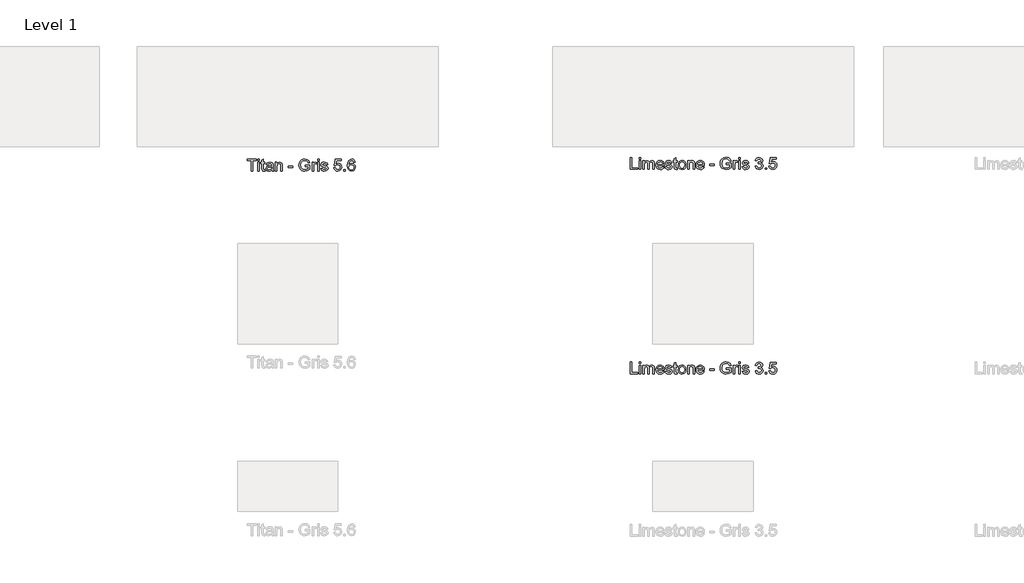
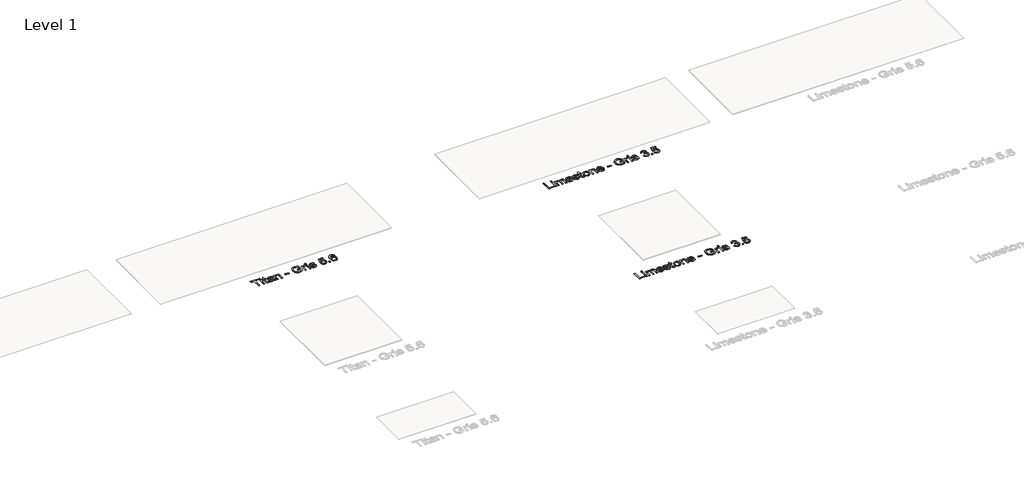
# One storey, part 5 of 80: 3 proxies.
"""IFC4 building model written with IfcOpenShell, lengths in millimetres."""

from ifc_helpers import new_model, si_unit, origin, origin_with_axes, place, context, project, spatial, polyline, outline, extrude, element, save

model = new_model("IFC4")

# Units and contexts
model_context = context("Model", 3, world=origin())
ifc_project = project(units=[si_unit("LENGTHUNIT", "METRE", prefix="MILLI")], contexts=[model_context])

# Site, building, storey
site = spatial("IfcSite", under=ifc_project)
building = spatial("IfcBuilding", under=site)
storey = spatial("IfcBuildingStorey", under=building, Name="Level 1", Elevation=0.0)

# Proxies
placement = place(None, origin())
element("IfcBuildingElementProxy", 1, Name="24\" Arial", ObjectType="24\" Arial", at=placement, inside=storey, context=model_context, shape_type="SweptSolid", body=[
    extrude(outline(polyline([(-23010.153031, -16671.3584739), (-23010.153031, -16567.9738585), (-23048.9222617, -16567.9738585), (-23048.9222617, -16553.2046277), (-22956.6145694, -16553.2046277), (-22956.6145694, -16567.9738585), (-22995.3838002, -16567.9738585), (-22995.3838002, -16671.3584739), (-23010.153031, -16671.3584739)])), origin_with_axes(), (0.0, 0.0, 1.0), 2.0),
    extrude(outline(polyline([(-22941.8453387, -16671.3584739), (-22941.8453387, -16584.5892431), (-22927.0761079, -16584.5892431), (-22927.0761079, -16671.3584739), (-22941.8453387, -16671.3584739)])), origin_with_axes(), (0.0, 0.0, 1.0), 2.0),
    extrude(outline(polyline([(-22941.8453387, -16567.9738585), (-22941.8453387, -16553.2046277), (-22927.0761079, -16553.2046277), (-22927.0761079, -16567.9738585), (-22941.8453387, -16567.9738585)])), origin_with_axes(), (0.0, 0.0, 1.0), 2.0),
    extrude(outline(polyline([(-22873.5376464, -16659.0411662), (-22871.6914925, -16671.7911662), (-22882.7395694, -16673.2046277), (-22895.1145694, -16670.7527046), (-22901.2876464, -16664.3200123), (-22903.0761079, -16647.560397), (-22903.0761079, -16599.3584739), (-22914.153031, -16599.3584739), (-22914.153031, -16584.5892431), (-22903.0761079, -16584.5892431), (-22903.0761079, -16563.5027046), (-22888.3068771, -16554.8200123), (-22888.3068771, -16584.5892431), (-22873.5376464, -16584.5892431), (-22873.5376464, -16599.3584739), (-22888.3068771, -16599.3584739), (-22888.3068771, -16647.1277046), (-22887.528031, -16654.7430893), (-22885.0039925, -16657.4402046), (-22879.9703387, -16658.435397), (-22873.5376464, -16659.0411662)])), origin_with_axes(), (0.0, 0.0, 1.0), 2.0),
    extrude(outline(polyline([(-22803.3838002, -16660.2815508), (-22817.7059156, -16670.2911662), (-22833.528031, -16673.2046277), (-22845.8705791, -16671.4522239), (-22854.9751464, -16666.1950123), (-22860.5893291, -16658.2118393), (-22862.4607233, -16648.2815508), (-22859.6338002, -16636.5988585), (-22852.2059156, -16628.1180893), (-22841.8645694, -16623.2719354), (-22829.0857233, -16621.0507816), (-22803.4703387, -16615.9738585), (-22803.3838002, -16612.685397), (-22807.4511079, -16601.7815508), (-22823.778031, -16597.51232), (-22838.7203387, -16600.3536662), (-22845.8453387, -16610.435397), (-22860.6145694, -16608.5892431), (-22854.2251464, -16594.1661662), (-22841.3597617, -16585.7142431), (-22821.8741848, -16582.7430893), (-22803.9751464, -16585.3680893), (-22793.8645694, -16591.9594354), (-22789.3357233, -16601.9834739), (-22788.6145694, -16614.9065508), (-22788.6145694, -16633.2815508), (-22787.8645694, -16658.9402046), (-22784.9222617, -16671.3584739), (-22799.6914925, -16671.3584739), (-22803.3838002, -16660.2815508)]), holes=[polyline([(-22803.3838002, -16630.7430893), (-22827.2107233, -16635.2719354), (-22839.9174541, -16637.6661662), (-22845.6722617, -16641.560397), (-22847.6914925, -16647.2430893), (-22843.2924541, -16655.2334739), (-22830.3838002, -16658.435397), (-22815.4414925, -16654.9017431), (-22805.8068771, -16646.3488585), (-22803.4703387, -16634.9257816), (-22803.3838002, -16630.7430893)])]), origin_with_axes(), (0.0, 0.0, 1.0), 2.0),
    extrude(outline(polyline([(-22768.3068771, -16671.3584739), (-22768.3068771, -16584.5892431), (-22753.5376464, -16584.5892431), (-22753.5376464, -16596.7046277), (-22742.2443771, -16586.2334739), (-22726.8261079, -16582.7430893), (-22712.8789925, -16585.5555893), (-22703.3597617, -16592.9402046), (-22698.9318771, -16603.8007816), (-22698.153031, -16618.0796277), (-22698.153031, -16671.3584739), (-22712.9222617, -16671.3584739), (-22712.9222617, -16620.0700123), (-22714.6241848, -16607.0027046), (-22720.6386079, -16600.0940508), (-22730.778031, -16597.51232), (-22746.8020694, -16603.310397), (-22751.8537521, -16611.7118393), (-22753.5376464, -16625.3200123), (-22753.5376464, -16671.3584739), (-22768.3068771, -16671.3584739)])), origin_with_axes(), (0.0, 0.0, 1.0), 2.0),
    extrude(outline(polyline([(-22639.0761079, -16636.2815508), (-22639.0761079, -16621.51232), (-22592.9222617, -16621.51232), (-22592.9222617, -16636.2815508), (-22639.0761079, -16636.2815508)])), origin_with_axes(), (0.0, 0.0, 1.0), 2.0),
    extrude(outline(polyline([(-22472.9222617, -16625.2046277), (-22472.9222617, -16610.435397), (-22424.9222617, -16610.435397), (-22424.9222617, -16654.5988585), (-22448.6193771, -16668.5315508), (-22473.6722617, -16673.2046277), (-22490.2407714, -16671.3476566), (-22505.215531, -16665.7767431), (-22517.6554348, -16656.6865989), (-22526.6193771, -16644.2719354), (-22532.0388483, -16629.3801085), (-22533.8453387, -16612.8584739), (-22532.0460598, -16596.2178489), (-22526.6482233, -16580.7382816), (-22517.8753867, -16567.7539066), (-22505.9511079, -16558.5988585), (-22491.4270694, -16553.16857), (-22474.8549541, -16551.3584739), (-22451.7491848, -16555.5555893), (-22435.5520694, -16567.2382816), (-22426.6241848, -16586.7815508), (-22440.2395694, -16590.6180893), (-22446.9751464, -16576.9594354), (-22458.4847617, -16569.0844354), (-22475.0857233, -16566.1277046), (-22493.9943771, -16569.3152046), (-22506.8597617, -16577.6805893), (-22514.4607233, -16589.060397), (-22519.0761079, -16612.2527046), (-22517.6878867, -16626.3765027), (-22513.5232233, -16637.997897), (-22506.7083194, -16647.0339546), (-22497.3693771, -16653.4017431), (-22474.8549541, -16658.435397), (-22454.6482233, -16654.6421277), (-22439.6914925, -16646.5507816), (-22439.6914925, -16625.2046277), (-22472.9222617, -16625.2046277)])), origin_with_axes(), (0.0, 0.0, 1.0), 2.0),
    extrude(outline(polyline([(-22402.7684156, -16671.3584739), (-22402.7684156, -16584.5892431), (-22389.8453387, -16584.5892431), (-22389.8453387, -16597.4257816), (-22380.6722617, -16585.5988585), (-22371.4414925, -16582.7430893), (-22356.6145694, -16587.3007816), (-22361.5472617, -16600.5411662), (-22371.9318771, -16597.51232), (-22380.2828387, -16600.4257816), (-22385.6049541, -16608.5027046), (-22387.9991848, -16625.7527046), (-22387.9991848, -16671.3584739), (-22402.7684156, -16671.3584739)])), origin_with_axes(), (0.0, 0.0, 1.0), 2.0),
    extrude(outline(polyline([(-22347.3838002, -16671.3584739), (-22347.3838002, -16584.5892431), (-22332.6145694, -16584.5892431), (-22332.6145694, -16671.3584739), (-22347.3838002, -16671.3584739)])), origin_with_axes(), (0.0, 0.0, 1.0), 2.0),
    extrude(outline(polyline([(-22347.3838002, -16567.9738585), (-22347.3838002, -16553.2046277), (-22332.6145694, -16553.2046277), (-22332.6145694, -16567.9738585), (-22347.3838002, -16567.9738585)])), origin_with_axes(), (0.0, 0.0, 1.0), 2.0),
    extrude(outline(polyline([(-22315.9991848, -16645.51232), (-22301.2299541, -16643.6661662), (-22294.3934156, -16654.6277046), (-22278.7299541, -16658.435397), (-22263.6722617, -16654.9450123), (-22258.7684156, -16646.7527046), (-22263.7011079, -16640.1180893), (-22278.903031, -16635.9065508), (-22301.1434156, -16628.6805893), (-22310.8501464, -16620.2430893), (-22314.153031, -16608.3296277), (-22311.4991848, -16597.32482), (-22304.2588002, -16588.9161662), (-22294.8693771, -16584.5459739), (-22282.1626464, -16582.7430893), (-22264.1914925, -16585.6421277), (-22252.7684156, -16593.4882816), (-22247.6914925, -16606.7430893), (-22262.4607233, -16608.5892431), (-22268.0136079, -16600.4402046), (-22281.0088002, -16597.51232), (-22295.1434156, -16600.310397), (-22299.3838002, -16606.8296277), (-22297.6241848, -16611.1277046), (-22292.1145694, -16614.38732), (-22279.3934156, -16617.5315508), (-22257.715531, -16624.4834739), (-22247.6482233, -16632.3584739), (-22243.9991848, -16645.1950123), (-22248.2828387, -16659.3296277), (-22260.6434156, -16669.5844354), (-22278.9318771, -16673.2046277), (-22293.8237041, -16671.4594354), (-22304.6914925, -16666.2238585), (-22311.9463002, -16657.5555893), (-22315.9991848, -16645.51232)])), origin_with_axes(), (0.0, 0.0, 1.0), 2.0),
    extrude(outline(polyline([(-22184.9222617, -16639.9738585), (-22170.153031, -16638.1277046), (-22162.7107233, -16653.3440508), (-22147.278031, -16658.435397), (-22136.6914925, -16656.6649643), (-22128.7588002, -16651.3536662), (-22123.8044733, -16643.1144835), (-22122.153031, -16632.560397), (-22123.699906, -16622.622897), (-22128.340531, -16615.0219354), (-22136.1109637, -16610.1974162), (-22147.0472617, -16608.5892431), (-22160.0136079, -16611.1565508), (-22168.3068771, -16617.8200123), (-22183.0761079, -16615.9738585), (-22170.153031, -16555.0507816), (-22112.9222617, -16555.0507816), (-22112.9222617, -16569.8200123), (-22158.2107233, -16569.8200123), (-22164.528031, -16602.3584739), (-22153.9775502, -16595.9546277), (-22142.9222617, -16593.8200123), (-22129.1229829, -16596.466647), (-22117.6674541, -16604.4065508), (-22109.9547137, -16616.5075123), (-22107.3838002, -16631.63732), (-22109.6987041, -16646.4065508), (-22116.6434156, -16659.0411662), (-22129.9414925, -16669.6637623), (-22147.3357233, -16673.2046277), (-22161.8417329, -16670.9293873), (-22173.3982233, -16664.1036662), (-22181.3200983, -16653.5207335), (-22184.9222617, -16639.9738585)])), origin_with_axes(), (0.0, 0.0, 1.0), 2.0),
    extrude(outline(polyline([(-22087.0761079, -16671.3584739), (-22087.0761079, -16656.5892431), (-22072.3068771, -16656.5892431), (-22072.3068771, -16671.3584739), (-22087.0761079, -16671.3584739)])), origin_with_axes(), (0.0, 0.0, 1.0), 2.0),
    extrude(outline(polyline([(-21972.6145694, -16584.5892431), (-21987.3838002, -16586.435397), (-21992.9799541, -16574.1180893), (-21999.6794733, -16569.5099162), (-22007.778031, -16567.9738585), (-22021.1049541, -16571.5507816), (-22031.1866848, -16584.9786662), (-22035.3838002, -16611.3007816), (-22022.3597617, -16599.5171277), (-22006.2203387, -16595.6661662), (-21992.5761079, -16598.2983777), (-21981.1241848, -16606.1950123), (-21973.3573579, -16618.2599162), (-21970.7684156, -16633.3969354), (-21975.6434156, -16653.7767431), (-21989.0568771, -16668.19982), (-22008.4126464, -16673.2046277), (-22025.168656, -16669.88732), (-22038.5136079, -16659.935397), (-22047.2431752, -16642.3680893), (-22050.153031, -16616.2046277), (-22046.9222617, -16586.7887623), (-22037.2299541, -16566.6757816), (-22023.996781, -16556.5724162), (-22006.8549541, -16553.2046277), (-21993.8958194, -16555.2887623), (-21983.5184156, -16561.5411662), (-21976.2491848, -16571.4714546), (-21972.6145694, -16584.5892431)]), holes=[polyline([(-22035.3838002, -16633.1661662), (-22031.965531, -16645.9594354), (-22022.8789925, -16655.247897), (-22009.5664925, -16658.435397), (-21999.8200983, -16656.7839546), (-21992.1578387, -16651.8296277), (-21987.1926944, -16644.0411662), (-21985.5376464, -16633.88732), (-21987.1710598, -16624.1409258), (-21992.0713002, -16616.7094354), (-21999.8633675, -16612.0039066), (-22010.1722617, -16610.435397), (-22019.9042329, -16612.0039066), (-22028.0424541, -16616.7094354), (-22033.5484637, -16623.9606373), (-22035.3838002, -16633.1661662)])]), origin_with_axes(), (0.0, 0.0, 1.0), 2.0),
])
element("IfcBuildingElementProxy", 2, Name="24\" Arial", ObjectType="24\" Arial", at=placement, inside=storey, context=model_context, shape_type="SweptSolid", body=[
    extrude(outline(polyline([(-19231.9991848, -16654.869717), (-19231.9991848, -16536.7158709), (-19217.2299541, -16536.7158709), (-19217.2299541, -16640.1004862), (-19158.153031, -16640.1004862), (-19158.153031, -16654.869717), (-19231.9991848, -16654.869717)])), origin_with_axes(), (0.0, 0.0, 1.0), 2.0),
    extrude(outline(polyline([(-19143.3838002, -16551.4851016), (-19143.3838002, -16536.7158709), (-19128.6145694, -16536.7158709), (-19128.6145694, -16551.4851016), (-19143.3838002, -16551.4851016)])), origin_with_axes(), (0.0, 0.0, 1.0), 2.0),
    extrude(outline(polyline([(-19143.3838002, -16654.869717), (-19143.3838002, -16568.1004862), (-19128.6145694, -16568.1004862), (-19128.6145694, -16654.869717), (-19143.3838002, -16654.869717)])), origin_with_axes(), (0.0, 0.0, 1.0), 2.0),
    extrude(outline(polyline([(-19106.4607233, -16654.869717), (-19106.4607233, -16568.1004862), (-19091.6914925, -16568.1004862), (-19091.6914925, -16582.3793324), (-19081.5376464, -16570.682217), (-19067.0857233, -16566.2543324), (-19052.2876464, -16570.7687555), (-19044.153031, -16583.4177939), (-19032.6289925, -16570.5451978), (-19018.0761079, -16566.2543324), (-19006.9739444, -16568.0391882), (-18998.7636079, -16573.3937555), (-18993.6902906, -16582.4622651), (-18991.9991848, -16595.3889478), (-18991.9991848, -16654.869717), (-19006.7684156, -16654.869717), (-19006.7684156, -16601.7351016), (-19008.1386079, -16589.4033709), (-19013.1001464, -16583.3312555), (-19021.5376464, -16581.0235632), (-19029.5388483, -16582.5019285), (-19036.0616848, -16586.9370247), (-19040.3994252, -16594.6317362), (-19041.8453387, -16605.8889478), (-19041.8453387, -16654.869717), (-19056.6145694, -16654.869717), (-19056.6145694, -16600.0908709), (-19060.0328387, -16585.7831785), (-19071.2395694, -16581.0235632), (-19082.1722617, -16584.1966401), (-19089.4414925, -16593.4851016), (-19091.6914925, -16611.1101016), (-19091.6914925, -16654.869717), (-19106.4607233, -16654.869717)])), origin_with_axes(), (0.0, 0.0, 1.0), 2.0),
    extrude(outline(polyline([(-18909.0953387, -16629.0235632), (-18894.6145694, -16630.869717), (-18899.8321175, -16641.7807747), (-18908.1578387, -16649.9370247), (-18919.4042329, -16655.0211593), (-18933.3838002, -16656.7158709), (-18950.7131271, -16653.791592), (-18964.0472617, -16645.0187555), (-18972.5496656, -16630.9670728), (-18975.3838002, -16612.2062555), (-18972.5208194, -16592.8144285), (-18963.9318771, -16578.3120247), (-18950.778031, -16569.2687555), (-18934.2203387, -16566.2543324), (-18918.1782714, -16569.2615439), (-18905.3597617, -16578.2831785), (-18896.9547137, -16592.7567362), (-18894.153031, -16612.119717), (-18894.2395694, -16616.1004862), (-18960.6145694, -16616.1004862), (-18958.0580791, -16627.1557747), (-18952.1193771, -16635.2831785), (-18943.5484637, -16640.2807747), (-18933.0953387, -16641.9466401), (-18918.6145694, -16638.8601016), (-18909.0953387, -16629.0235632)]), holes=[polyline([(-18960.6145694, -16601.3312555), (-18908.9222617, -16601.3312555), (-18914.8357233, -16587.9466401), (-18923.4463002, -16582.7543324), (-18934.278031, -16581.0235632), (-18952.465531, -16586.5476016), (-18958.1878867, -16593.0055343), (-18960.6145694, -16601.3312555)])]), origin_with_axes(), (0.0, 0.0, 1.0), 2.0),
    extrude(outline(polyline([(-18884.9222617, -16629.0235632), (-18870.153031, -16627.1774093), (-18863.3164925, -16638.1389478), (-18847.653031, -16641.9466401), (-18832.5953387, -16638.4562555), (-18827.6914925, -16630.2639478), (-18832.6241848, -16623.6293324), (-18847.8261079, -16619.4177939), (-18870.0664925, -16612.1918324), (-18879.7732233, -16603.7543324), (-18883.0761079, -16591.8408709), (-18880.4222617, -16580.8360632), (-18873.1818771, -16572.4274093), (-18863.7924541, -16568.057217), (-18851.0857233, -16566.2543324), (-18833.1145694, -16569.1533709), (-18821.6914925, -16576.9995247), (-18816.6145694, -16590.2543324), (-18831.3838002, -16592.1004862), (-18836.9366848, -16583.9514478), (-18849.9318771, -16581.0235632), (-18864.0664925, -16583.8216401), (-18868.3068771, -16590.3408709), (-18866.5472617, -16594.6389478), (-18861.0376464, -16597.8985632), (-18848.3164925, -16601.0427939), (-18826.6386079, -16607.994717), (-18816.5713002, -16615.869717), (-18812.9222617, -16628.7062555), (-18817.2059156, -16642.8408709), (-18829.5664925, -16653.0956785), (-18847.8549541, -16656.7158709), (-18862.746781, -16654.9706785), (-18873.6145694, -16649.7351016), (-18880.8693771, -16641.0668324), (-18884.9222617, -16629.0235632)])), origin_with_axes(), (0.0, 0.0, 1.0), 2.0),
    extrude(outline(polyline([(-18764.9222617, -16642.5524093), (-18763.0761079, -16655.3024093), (-18774.1241848, -16656.7158709), (-18786.4991848, -16654.2639478), (-18792.6722617, -16647.8312555), (-18794.4607233, -16631.0716401), (-18794.4607233, -16582.869717), (-18805.5376464, -16582.869717), (-18805.5376464, -16568.1004862), (-18794.4607233, -16568.1004862), (-18794.4607233, -16547.0139478), (-18779.6914925, -16538.3312555), (-18779.6914925, -16568.1004862), (-18764.9222617, -16568.1004862), (-18764.9222617, -16582.869717), (-18779.6914925, -16582.869717), (-18779.6914925, -16630.6389478), (-18778.9126464, -16638.2543324), (-18776.3886079, -16640.9514478), (-18771.3549541, -16641.9466401), (-18764.9222617, -16642.5524093)])), origin_with_axes(), (0.0, 0.0, 1.0), 2.0),
    extrude(outline(polyline([(-18753.8453387, -16611.4851016), (-18750.6506271, -16590.5644285), (-18741.0664925, -16575.8601016), (-18729.2251464, -16568.6557747), (-18715.0472617, -16566.2543324), (-18699.5316367, -16569.1786112), (-18687.1386079, -16577.9514478), (-18679.0148098, -16591.8805343), (-18676.3068771, -16610.2735632), (-18681.0953387, -16636.5524093), (-18695.0424541, -16651.4226016), (-18715.0472617, -16656.7158709), (-18730.7503867, -16653.8024093), (-18743.1289925, -16645.0620247), (-18751.1662521, -16630.8408709), (-18753.8453387, -16611.4851016)]), holes=[polyline([(-18739.0761079, -16611.4562555), (-18737.3669733, -16624.822842), (-18732.2395694, -16634.3456785), (-18724.5232233, -16640.0463997), (-18715.0472617, -16641.9466401), (-18705.6145694, -16640.0355824), (-18697.9126464, -16634.3024093), (-18692.7852425, -16624.6533709), (-18691.0761079, -16610.994717), (-18692.7960598, -16598.0175535), (-18697.9559156, -16588.6245247), (-18705.668656, -16582.9238035), (-18715.0472617, -16581.0235632), (-18724.5232233, -16582.916592), (-18732.2395694, -16588.5956785), (-18737.3669733, -16598.0968805), (-18739.0761079, -16611.4562555)])]), origin_with_axes(), (0.0, 0.0, 1.0), 2.0),
    extrude(outline(polyline([(-18659.6914925, -16654.869717), (-18659.6914925, -16568.1004862), (-18644.9222617, -16568.1004862), (-18644.9222617, -16580.2158709), (-18633.6289925, -16569.744717), (-18618.2107233, -16566.2543324), (-18604.2636079, -16569.0668324), (-18594.7443771, -16576.4514478), (-18590.3164925, -16587.3120247), (-18589.5376464, -16601.5908709), (-18589.5376464, -16654.869717), (-18604.3068771, -16654.869717), (-18604.3068771, -16603.5812555), (-18606.0088002, -16590.5139478), (-18612.0232233, -16583.6052939), (-18622.1626464, -16581.0235632), (-18638.1866848, -16586.8216401), (-18643.2383675, -16595.2230824), (-18644.9222617, -16608.8312555), (-18644.9222617, -16654.869717), (-18659.6914925, -16654.869717)])), origin_with_axes(), (0.0, 0.0, 1.0), 2.0),
    extrude(outline(polyline([(-18508.4799541, -16629.0235632), (-18493.9991848, -16630.869717), (-18499.2167329, -16641.7807747), (-18507.5424541, -16649.9370247), (-18518.7888483, -16655.0211593), (-18532.7684156, -16656.7158709), (-18550.0977425, -16653.791592), (-18563.4318771, -16645.0187555), (-18571.934281, -16630.9670728), (-18574.7684156, -16612.2062555), (-18571.9054348, -16592.8144285), (-18563.3164925, -16578.3120247), (-18550.1626464, -16569.2687555), (-18533.6049541, -16566.2543324), (-18517.5628867, -16569.2615439), (-18504.7443771, -16578.2831785), (-18496.3393291, -16592.7567362), (-18493.5376464, -16612.119717), (-18493.6241848, -16616.1004862), (-18559.9991848, -16616.1004862), (-18557.4426944, -16627.1557747), (-18551.5039925, -16635.2831785), (-18542.9330791, -16640.2807747), (-18532.4799541, -16641.9466401), (-18517.9991848, -16638.8601016), (-18508.4799541, -16629.0235632)]), holes=[polyline([(-18559.9991848, -16601.3312555), (-18508.3068771, -16601.3312555), (-18514.2203387, -16587.9466401), (-18522.8309156, -16582.7543324), (-18533.6626464, -16581.0235632), (-18551.8501464, -16586.5476016), (-18557.5725021, -16593.0055343), (-18559.9991848, -16601.3312555)])]), origin_with_axes(), (0.0, 0.0, 1.0), 2.0),
    extrude(outline(polyline([(-18439.9991848, -16619.7927939), (-18439.9991848, -16605.0235632), (-18393.8453387, -16605.0235632), (-18393.8453387, -16619.7927939), (-18439.9991848, -16619.7927939)])), origin_with_axes(), (0.0, 0.0, 1.0), 2.0),
    extrude(outline(polyline([(-18273.8453387, -16608.7158709), (-18273.8453387, -16593.9466401), (-18225.8453387, -16593.9466401), (-18225.8453387, -16638.1101016), (-18249.5424541, -16652.0427939), (-18274.5953387, -16656.7158709), (-18291.1638483, -16654.8588997), (-18306.1386079, -16649.2879862), (-18318.5785117, -16640.197842), (-18327.5424541, -16627.7831785), (-18332.9619252, -16612.8913516), (-18334.7684156, -16596.369717), (-18332.9691367, -16579.729092), (-18327.5713002, -16564.2495247), (-18318.7984637, -16551.2651497), (-18306.8741848, -16542.1101016), (-18292.3501464, -16536.6798132), (-18275.778031, -16534.869717), (-18252.6722617, -16539.0668324), (-18236.4751464, -16550.7495247), (-18227.5472617, -16570.2927939), (-18241.1626464, -16574.1293324), (-18247.8982233, -16560.4706785), (-18259.4078387, -16552.5956785), (-18276.0088002, -16549.6389478), (-18294.9174541, -16552.8264478), (-18307.7828387, -16561.1918324), (-18315.3838002, -16572.5716401), (-18319.9991848, -16595.7639478), (-18318.6109637, -16609.8877459), (-18314.4463002, -16621.5091401), (-18307.6313964, -16630.5451978), (-18298.2924541, -16636.9129862), (-18275.778031, -16641.9466401), (-18255.5713002, -16638.1533709), (-18240.6145694, -16630.0620247), (-18240.6145694, -16608.7158709), (-18273.8453387, -16608.7158709)])), origin_with_axes(), (0.0, 0.0, 1.0), 2.0),
    extrude(outline(polyline([(-18203.6914925, -16654.869717), (-18203.6914925, -16568.1004862), (-18190.7684156, -16568.1004862), (-18190.7684156, -16580.9370247), (-18181.5953387, -16569.1101016), (-18172.3645694, -16566.2543324), (-18157.5376464, -16570.8120247), (-18162.4703387, -16584.0524093), (-18172.8549541, -16581.0235632), (-18181.2059156, -16583.9370247), (-18186.528031, -16592.0139478), (-18188.9222617, -16609.2639478), (-18188.9222617, -16654.869717), (-18203.6914925, -16654.869717)])), origin_with_axes(), (0.0, 0.0, 1.0), 2.0),
    extrude(outline(polyline([(-18148.3068771, -16551.4851016), (-18148.3068771, -16536.7158709), (-18133.5376464, -16536.7158709), (-18133.5376464, -16551.4851016), (-18148.3068771, -16551.4851016)])), origin_with_axes(), (0.0, 0.0, 1.0), 2.0),
    extrude(outline(polyline([(-18148.3068771, -16654.869717), (-18148.3068771, -16568.1004862), (-18133.5376464, -16568.1004862), (-18133.5376464, -16654.869717), (-18148.3068771, -16654.869717)])), origin_with_axes(), (0.0, 0.0, 1.0), 2.0),
    extrude(outline(polyline([(-18116.9222617, -16629.0235632), (-18102.153031, -16627.1774093), (-18095.3164925, -16638.1389478), (-18079.653031, -16641.9466401), (-18064.5953387, -16638.4562555), (-18059.6914925, -16630.2639478), (-18064.6241848, -16623.6293324), (-18079.8261079, -16619.4177939), (-18102.0664925, -16612.1918324), (-18111.7732233, -16603.7543324), (-18115.0761079, -16591.8408709), (-18112.4222617, -16580.8360632), (-18105.1818771, -16572.4274093), (-18095.7924541, -16568.057217), (-18083.0857233, -16566.2543324), (-18065.1145694, -16569.1533709), (-18053.6914925, -16576.9995247), (-18048.6145694, -16590.2543324), (-18063.3838002, -16592.1004862), (-18068.9366848, -16583.9514478), (-18081.9318771, -16581.0235632), (-18096.0664925, -16583.8216401), (-18100.3068771, -16590.3408709), (-18098.5472617, -16594.6389478), (-18093.0376464, -16597.8985632), (-18080.3164925, -16601.0427939), (-18058.6386079, -16607.994717), (-18048.5713002, -16615.869717), (-18044.9222617, -16628.7062555), (-18049.2059156, -16642.8408709), (-18061.5664925, -16653.0956785), (-18079.8549541, -16656.7158709), (-18094.746781, -16654.9706785), (-18105.6145694, -16649.7351016), (-18112.8693771, -16641.0668324), (-18116.9222617, -16629.0235632)])), origin_with_axes(), (0.0, 0.0, 1.0), 2.0),
    extrude(outline(polyline([(-17985.8453387, -16623.4851016), (-17971.0761079, -16621.6389478), (-17962.9270694, -16637.1870247), (-17947.6818771, -16641.9466401), (-17937.5568771, -16640.3096209), (-17929.7395694, -16635.3985632), (-17924.7419733, -16628.0716401), (-17923.0761079, -16619.1870247), (-17924.7275502, -16610.7531305), (-17929.6818771, -16603.9129862), (-17937.1818771, -16599.3805343), (-17946.4703387, -16597.869717), (-17956.8261079, -16599.4851016), (-17955.1818771, -16584.7158709), (-17952.8164925, -16584.8889478), (-17936.0568771, -16580.6485632), (-17930.4751464, -16575.2687555), (-17928.6145694, -16567.6101016), (-17934.0088002, -16556.057217), (-17947.9126464, -16551.4851016), (-17961.9895694, -16556.1004862), (-17969.2299541, -16569.9466401), (-17983.9991848, -16568.1004862), (-17979.6506271, -16554.838467), (-17971.9126464, -16544.9370247), (-17961.3261079, -16538.7711593), (-17948.4318771, -16536.7158709), (-17930.6193771, -16540.7687555), (-17918.1578387, -16551.8456785), (-17913.8453387, -16566.744717), (-17917.9414925, -16580.3601016), (-17930.0568771, -16590.1389478), (-17920.8116848, -16593.8745247), (-17913.9607233, -16600.2351016), (-17909.7203387, -16608.8745247), (-17908.3068771, -16619.4466401), (-17911.1338002, -16633.8408709), (-17919.6145694, -16645.869717), (-17932.4150502, -16654.0043324), (-17948.2011079, -16656.7158709), (-17962.4799541, -16654.400967), (-17974.1049541, -16647.4562555), (-17982.1890887, -16636.8336593), (-17985.8453387, -16623.4851016)])), origin_with_axes(), (0.0, 0.0, 1.0), 2.0),
    extrude(outline(polyline([(-17887.9991848, -16654.869717), (-17887.9991848, -16640.1004862), (-17873.2299541, -16640.1004862), (-17873.2299541, -16654.869717), (-17887.9991848, -16654.869717)])), origin_with_axes(), (0.0, 0.0, 1.0), 2.0),
    extrude(outline(polyline([(-17849.2299541, -16623.4851016), (-17834.4607233, -16621.6389478), (-17827.0184156, -16636.8552939), (-17811.5857233, -16641.9466401), (-17800.9991848, -16640.1762074), (-17793.0664925, -16634.8649093), (-17788.1121656, -16626.6257266), (-17786.4607233, -16616.0716401), (-17788.0075983, -16606.1341401), (-17792.6482233, -16598.5331785), (-17800.418656, -16593.7086593), (-17811.3549541, -16592.1004862), (-17824.3213002, -16594.6677939), (-17832.6145694, -16601.3312555), (-17847.3838002, -16599.4851016), (-17834.4607233, -16538.5620247), (-17777.2299541, -16538.5620247), (-17777.2299541, -16553.3312555), (-17822.5184156, -16553.3312555), (-17828.8357233, -16585.869717), (-17818.2852425, -16579.4658709), (-17807.2299541, -16577.3312555), (-17793.4306752, -16579.9778901), (-17781.9751464, -16587.9177939), (-17774.262406, -16600.0187555), (-17771.6914925, -16615.1485632), (-17774.0063964, -16629.9177939), (-17780.9511079, -16642.5524093), (-17794.2491848, -16653.1750055), (-17811.6434156, -16656.7158709), (-17826.1494252, -16654.4406305), (-17837.7059156, -16647.6149093), (-17845.6277906, -16637.0319766), (-17849.2299541, -16623.4851016)])), origin_with_axes(), (0.0, 0.0, 1.0), 2.0),
])
element("IfcBuildingElementProxy", 3, Name="24\" Arial", ObjectType="24\" Arial", at=placement, inside=storey, context=model_context, shape_type="SweptSolid", body=[
    extrude(outline(polyline([(-19231.9991848, -18695.513613), (-19231.9991848, -18577.3597669), (-19217.2299541, -18577.3597669), (-19217.2299541, -18680.7443823), (-19158.153031, -18680.7443823), (-19158.153031, -18695.513613), (-19231.9991848, -18695.513613)])), origin_with_axes(), (0.0, 0.0, 1.0), 2.0),
    extrude(outline(polyline([(-19143.3838002, -18592.1289977), (-19143.3838002, -18577.3597669), (-19128.6145694, -18577.3597669), (-19128.6145694, -18592.1289977), (-19143.3838002, -18592.1289977)])), origin_with_axes(), (0.0, 0.0, 1.0), 2.0),
    extrude(outline(polyline([(-19143.3838002, -18695.513613), (-19143.3838002, -18608.7443823), (-19128.6145694, -18608.7443823), (-19128.6145694, -18695.513613), (-19143.3838002, -18695.513613)])), origin_with_axes(), (0.0, 0.0, 1.0), 2.0),
    extrude(outline(polyline([(-19106.4607233, -18695.513613), (-19106.4607233, -18608.7443823), (-19091.6914925, -18608.7443823), (-19091.6914925, -18623.0232284), (-19081.5376464, -18611.326113), (-19067.0857233, -18606.8982284), (-19052.2876464, -18611.4126515), (-19044.153031, -18624.06169), (-19032.6289925, -18611.1890938), (-19018.0761079, -18606.8982284), (-19006.9739444, -18608.6830842), (-18998.7636079, -18614.0376515), (-18993.6902906, -18623.1061611), (-18991.9991848, -18636.0328438), (-18991.9991848, -18695.513613), (-19006.7684156, -18695.513613), (-19006.7684156, -18642.3789977), (-19008.1386079, -18630.0472669), (-19013.1001464, -18623.9751515), (-19021.5376464, -18621.6674592), (-19029.5388483, -18623.1458246), (-19036.0616848, -18627.5809207), (-19040.3994252, -18635.2756323), (-19041.8453387, -18646.5328438), (-19041.8453387, -18695.513613), (-19056.6145694, -18695.513613), (-19056.6145694, -18640.7347669), (-19060.0328387, -18626.4270746), (-19071.2395694, -18621.6674592), (-19082.1722617, -18624.8405361), (-19089.4414925, -18634.1289977), (-19091.6914925, -18651.7539977), (-19091.6914925, -18695.513613), (-19106.4607233, -18695.513613)])), origin_with_axes(), (0.0, 0.0, 1.0), 2.0),
    extrude(outline(polyline([(-18909.0953387, -18669.6674592), (-18894.6145694, -18671.513613), (-18899.8321175, -18682.4246707), (-18908.1578387, -18690.5809207), (-18919.4042329, -18695.6650553), (-18933.3838002, -18697.3597669), (-18950.7131271, -18694.435488), (-18964.0472617, -18685.6626515), (-18972.5496656, -18671.6109688), (-18975.3838002, -18652.8501515), (-18972.5208194, -18633.4583246), (-18963.9318771, -18618.9559207), (-18950.778031, -18609.9126515), (-18934.2203387, -18606.8982284), (-18918.1782714, -18609.90544), (-18905.3597617, -18618.9270746), (-18896.9547137, -18633.4006323), (-18894.153031, -18652.763613), (-18894.2395694, -18656.7443823), (-18960.6145694, -18656.7443823), (-18958.0580791, -18667.7996707), (-18952.1193771, -18675.9270746), (-18943.5484637, -18680.9246707), (-18933.0953387, -18682.5905361), (-18918.6145694, -18679.5039977), (-18909.0953387, -18669.6674592)]), holes=[polyline([(-18960.6145694, -18641.9751515), (-18908.9222617, -18641.9751515), (-18914.8357233, -18628.5905361), (-18923.4463002, -18623.3982284), (-18934.278031, -18621.6674592), (-18952.465531, -18627.1914977), (-18958.1878867, -18633.6494303), (-18960.6145694, -18641.9751515)])]), origin_with_axes(), (0.0, 0.0, 1.0), 2.0),
    extrude(outline(polyline([(-18884.9222617, -18669.6674592), (-18870.153031, -18667.8213053), (-18863.3164925, -18678.7828438), (-18847.653031, -18682.5905361), (-18832.5953387, -18679.1001515), (-18827.6914925, -18670.9078438), (-18832.6241848, -18664.2732284), (-18847.8261079, -18660.06169), (-18870.0664925, -18652.8357284), (-18879.7732233, -18644.3982284), (-18883.0761079, -18632.4847669), (-18880.4222617, -18621.4799592), (-18873.1818771, -18613.0713053), (-18863.7924541, -18608.701113), (-18851.0857233, -18606.8982284), (-18833.1145694, -18609.7972669), (-18821.6914925, -18617.6434207), (-18816.6145694, -18630.8982284), (-18831.3838002, -18632.7443823), (-18836.9366848, -18624.5953438), (-18849.9318771, -18621.6674592), (-18864.0664925, -18624.4655361), (-18868.3068771, -18630.9847669), (-18866.5472617, -18635.2828438), (-18861.0376464, -18638.5424592), (-18848.3164925, -18641.68669), (-18826.6386079, -18648.638613), (-18816.5713002, -18656.513613), (-18812.9222617, -18669.3501515), (-18817.2059156, -18683.4847669), (-18829.5664925, -18693.7395746), (-18847.8549541, -18697.3597669), (-18862.746781, -18695.6145746), (-18873.6145694, -18690.3789977), (-18880.8693771, -18681.7107284), (-18884.9222617, -18669.6674592)])), origin_with_axes(), (0.0, 0.0, 1.0), 2.0),
    extrude(outline(polyline([(-18764.9222617, -18683.1963053), (-18763.0761079, -18695.9463053), (-18774.1241848, -18697.3597669), (-18786.4991848, -18694.9078438), (-18792.6722617, -18688.4751515), (-18794.4607233, -18671.7155361), (-18794.4607233, -18623.513613), (-18805.5376464, -18623.513613), (-18805.5376464, -18608.7443823), (-18794.4607233, -18608.7443823), (-18794.4607233, -18587.6578438), (-18779.6914925, -18578.9751515), (-18779.6914925, -18608.7443823), (-18764.9222617, -18608.7443823), (-18764.9222617, -18623.513613), (-18779.6914925, -18623.513613), (-18779.6914925, -18671.2828438), (-18778.9126464, -18678.8982284), (-18776.3886079, -18681.5953438), (-18771.3549541, -18682.5905361), (-18764.9222617, -18683.1963053)])), origin_with_axes(), (0.0, 0.0, 1.0), 2.0),
    extrude(outline(polyline([(-18753.8453387, -18652.1289977), (-18750.6506271, -18631.2083246), (-18741.0664925, -18616.5039977), (-18729.2251464, -18609.2996707), (-18715.0472617, -18606.8982284), (-18699.5316367, -18609.8225073), (-18687.1386079, -18618.5953438), (-18679.0148098, -18632.5244303), (-18676.3068771, -18650.9174592), (-18681.0953387, -18677.1963053), (-18695.0424541, -18692.0664977), (-18715.0472617, -18697.3597669), (-18730.7503867, -18694.4463053), (-18743.1289925, -18685.7059207), (-18751.1662521, -18671.4847669), (-18753.8453387, -18652.1289977)]), holes=[polyline([(-18739.0761079, -18652.1001515), (-18737.3669733, -18665.466738), (-18732.2395694, -18674.9895746), (-18724.5232233, -18680.6902957), (-18715.0472617, -18682.5905361), (-18705.6145694, -18680.6794784), (-18697.9126464, -18674.9463053), (-18692.7852425, -18665.2972669), (-18691.0761079, -18651.638613), (-18692.7960598, -18638.6614496), (-18697.9559156, -18629.2684207), (-18705.668656, -18623.5676996), (-18715.0472617, -18621.6674592), (-18724.5232233, -18623.560488), (-18732.2395694, -18629.2395746), (-18737.3669733, -18638.7407765), (-18739.0761079, -18652.1001515)])]), origin_with_axes(), (0.0, 0.0, 1.0), 2.0),
    extrude(outline(polyline([(-18659.6914925, -18695.513613), (-18659.6914925, -18608.7443823), (-18644.9222617, -18608.7443823), (-18644.9222617, -18620.8597669), (-18633.6289925, -18610.388613), (-18618.2107233, -18606.8982284), (-18604.2636079, -18609.7107284), (-18594.7443771, -18617.0953438), (-18590.3164925, -18627.9559207), (-18589.5376464, -18642.2347669), (-18589.5376464, -18695.513613), (-18604.3068771, -18695.513613), (-18604.3068771, -18644.2251515), (-18606.0088002, -18631.1578438), (-18612.0232233, -18624.24919), (-18622.1626464, -18621.6674592), (-18638.1866848, -18627.4655361), (-18643.2383675, -18635.8669784), (-18644.9222617, -18649.4751515), (-18644.9222617, -18695.513613), (-18659.6914925, -18695.513613)])), origin_with_axes(), (0.0, 0.0, 1.0), 2.0),
    extrude(outline(polyline([(-18508.4799541, -18669.6674592), (-18493.9991848, -18671.513613), (-18499.2167329, -18682.4246707), (-18507.5424541, -18690.5809207), (-18518.7888483, -18695.6650553), (-18532.7684156, -18697.3597669), (-18550.0977425, -18694.435488), (-18563.4318771, -18685.6626515), (-18571.934281, -18671.6109688), (-18574.7684156, -18652.8501515), (-18571.9054348, -18633.4583246), (-18563.3164925, -18618.9559207), (-18550.1626464, -18609.9126515), (-18533.6049541, -18606.8982284), (-18517.5628867, -18609.90544), (-18504.7443771, -18618.9270746), (-18496.3393291, -18633.4006323), (-18493.5376464, -18652.763613), (-18493.6241848, -18656.7443823), (-18559.9991848, -18656.7443823), (-18557.4426944, -18667.7996707), (-18551.5039925, -18675.9270746), (-18542.9330791, -18680.9246707), (-18532.4799541, -18682.5905361), (-18517.9991848, -18679.5039977), (-18508.4799541, -18669.6674592)]), holes=[polyline([(-18559.9991848, -18641.9751515), (-18508.3068771, -18641.9751515), (-18514.2203387, -18628.5905361), (-18522.8309156, -18623.3982284), (-18533.6626464, -18621.6674592), (-18551.8501464, -18627.1914977), (-18557.5725021, -18633.6494303), (-18559.9991848, -18641.9751515)])]), origin_with_axes(), (0.0, 0.0, 1.0), 2.0),
    extrude(outline(polyline([(-18439.9991848, -18660.43669), (-18439.9991848, -18645.6674592), (-18393.8453387, -18645.6674592), (-18393.8453387, -18660.43669), (-18439.9991848, -18660.43669)])), origin_with_axes(), (0.0, 0.0, 1.0), 2.0),
    extrude(outline(polyline([(-18273.8453387, -18649.3597669), (-18273.8453387, -18634.5905361), (-18225.8453387, -18634.5905361), (-18225.8453387, -18678.7539977), (-18249.5424541, -18692.68669), (-18274.5953387, -18697.3597669), (-18291.1638483, -18695.5027957), (-18306.1386079, -18689.9318823), (-18318.5785117, -18680.841738), (-18327.5424541, -18668.4270746), (-18332.9619252, -18653.5352477), (-18334.7684156, -18637.013613), (-18332.9691367, -18620.372988), (-18327.5713002, -18604.8934207), (-18318.7984637, -18591.9090457), (-18306.8741848, -18582.7539977), (-18292.3501464, -18577.3237092), (-18275.778031, -18575.513613), (-18252.6722617, -18579.7107284), (-18236.4751464, -18591.3934207), (-18227.5472617, -18610.93669), (-18241.1626464, -18614.7732284), (-18247.8982233, -18601.1145746), (-18259.4078387, -18593.2395746), (-18276.0088002, -18590.2828438), (-18294.9174541, -18593.4703438), (-18307.7828387, -18601.8357284), (-18315.3838002, -18613.2155361), (-18319.9991848, -18636.4078438), (-18318.6109637, -18650.5316419), (-18314.4463002, -18662.1530361), (-18307.6313964, -18671.1890938), (-18298.2924541, -18677.5568823), (-18275.778031, -18682.5905361), (-18255.5713002, -18678.7972669), (-18240.6145694, -18670.7059207), (-18240.6145694, -18649.3597669), (-18273.8453387, -18649.3597669)])), origin_with_axes(), (0.0, 0.0, 1.0), 2.0),
    extrude(outline(polyline([(-18203.6914925, -18695.513613), (-18203.6914925, -18608.7443823), (-18190.7684156, -18608.7443823), (-18190.7684156, -18621.5809207), (-18181.5953387, -18609.7539977), (-18172.3645694, -18606.8982284), (-18157.5376464, -18611.4559207), (-18162.4703387, -18624.6963053), (-18172.8549541, -18621.6674592), (-18181.2059156, -18624.5809207), (-18186.528031, -18632.6578438), (-18188.9222617, -18649.9078438), (-18188.9222617, -18695.513613), (-18203.6914925, -18695.513613)])), origin_with_axes(), (0.0, 0.0, 1.0), 2.0),
    extrude(outline(polyline([(-18148.3068771, -18592.1289977), (-18148.3068771, -18577.3597669), (-18133.5376464, -18577.3597669), (-18133.5376464, -18592.1289977), (-18148.3068771, -18592.1289977)])), origin_with_axes(), (0.0, 0.0, 1.0), 2.0),
    extrude(outline(polyline([(-18148.3068771, -18695.513613), (-18148.3068771, -18608.7443823), (-18133.5376464, -18608.7443823), (-18133.5376464, -18695.513613), (-18148.3068771, -18695.513613)])), origin_with_axes(), (0.0, 0.0, 1.0), 2.0),
    extrude(outline(polyline([(-18116.9222617, -18669.6674592), (-18102.153031, -18667.8213053), (-18095.3164925, -18678.7828438), (-18079.653031, -18682.5905361), (-18064.5953387, -18679.1001515), (-18059.6914925, -18670.9078438), (-18064.6241848, -18664.2732284), (-18079.8261079, -18660.06169), (-18102.0664925, -18652.8357284), (-18111.7732233, -18644.3982284), (-18115.0761079, -18632.4847669), (-18112.4222617, -18621.4799592), (-18105.1818771, -18613.0713053), (-18095.7924541, -18608.701113), (-18083.0857233, -18606.8982284), (-18065.1145694, -18609.7972669), (-18053.6914925, -18617.6434207), (-18048.6145694, -18630.8982284), (-18063.3838002, -18632.7443823), (-18068.9366848, -18624.5953438), (-18081.9318771, -18621.6674592), (-18096.0664925, -18624.4655361), (-18100.3068771, -18630.9847669), (-18098.5472617, -18635.2828438), (-18093.0376464, -18638.5424592), (-18080.3164925, -18641.68669), (-18058.6386079, -18648.638613), (-18048.5713002, -18656.513613), (-18044.9222617, -18669.3501515), (-18049.2059156, -18683.4847669), (-18061.5664925, -18693.7395746), (-18079.8549541, -18697.3597669), (-18094.746781, -18695.6145746), (-18105.6145694, -18690.3789977), (-18112.8693771, -18681.7107284), (-18116.9222617, -18669.6674592)])), origin_with_axes(), (0.0, 0.0, 1.0), 2.0),
    extrude(outline(polyline([(-17985.8453387, -18664.1289977), (-17971.0761079, -18662.2828438), (-17962.9270694, -18677.8309207), (-17947.6818771, -18682.5905361), (-17937.5568771, -18680.9535169), (-17929.7395694, -18676.0424592), (-17924.7419733, -18668.7155361), (-17923.0761079, -18659.8309207), (-17924.7275502, -18651.3970265), (-17929.6818771, -18644.5568823), (-17937.1818771, -18640.0244303), (-17946.4703387, -18638.513613), (-17956.8261079, -18640.1289977), (-17955.1818771, -18625.3597669), (-17952.8164925, -18625.5328438), (-17936.0568771, -18621.2924592), (-17930.4751464, -18615.9126515), (-17928.6145694, -18608.2539977), (-17934.0088002, -18596.701113), (-17947.9126464, -18592.1289977), (-17961.9895694, -18596.7443823), (-17969.2299541, -18610.5905361), (-17983.9991848, -18608.7443823), (-17979.6506271, -18595.482363), (-17971.9126464, -18585.5809207), (-17961.3261079, -18579.4150553), (-17948.4318771, -18577.3597669), (-17930.6193771, -18581.4126515), (-17918.1578387, -18592.4895746), (-17913.8453387, -18607.388613), (-17917.9414925, -18621.0039977), (-17930.0568771, -18630.7828438), (-17920.8116848, -18634.5184207), (-17913.9607233, -18640.8789977), (-17909.7203387, -18649.5184207), (-17908.3068771, -18660.0905361), (-17911.1338002, -18674.4847669), (-17919.6145694, -18686.513613), (-17932.4150502, -18694.6482284), (-17948.2011079, -18697.3597669), (-17962.4799541, -18695.044863), (-17974.1049541, -18688.1001515), (-17982.1890887, -18677.4775553), (-17985.8453387, -18664.1289977)])), origin_with_axes(), (0.0, 0.0, 1.0), 2.0),
    extrude(outline(polyline([(-17887.9991848, -18695.513613), (-17887.9991848, -18680.7443823), (-17873.2299541, -18680.7443823), (-17873.2299541, -18695.513613), (-17887.9991848, -18695.513613)])), origin_with_axes(), (0.0, 0.0, 1.0), 2.0),
    extrude(outline(polyline([(-17849.2299541, -18664.1289977), (-17834.4607233, -18662.2828438), (-17827.0184156, -18677.49919), (-17811.5857233, -18682.5905361), (-17800.9991848, -18680.8201034), (-17793.0664925, -18675.5088053), (-17788.1121656, -18667.2696227), (-17786.4607233, -18656.7155361), (-17788.0075983, -18646.7780361), (-17792.6482233, -18639.1770746), (-17800.418656, -18634.3525553), (-17811.3549541, -18632.7443823), (-17824.3213002, -18635.31169), (-17832.6145694, -18641.9751515), (-17847.3838002, -18640.1289977), (-17834.4607233, -18579.2059207), (-17777.2299541, -18579.2059207), (-17777.2299541, -18593.9751515), (-17822.5184156, -18593.9751515), (-17828.8357233, -18626.513613), (-17818.2852425, -18620.1097669), (-17807.2299541, -18617.9751515), (-17793.4306752, -18620.6217861), (-17781.9751464, -18628.56169), (-17774.262406, -18640.6626515), (-17771.6914925, -18655.7924592), (-17774.0063964, -18670.56169), (-17780.9511079, -18683.1963053), (-17794.2491848, -18693.8189015), (-17811.6434156, -18697.3597669), (-17826.1494252, -18695.0845265), (-17837.7059156, -18688.2588053), (-17845.6277906, -18677.6758727), (-17849.2299541, -18664.1289977)])), origin_with_axes(), (0.0, 0.0, 1.0), 2.0),
])

save(model, "model.ifc")
